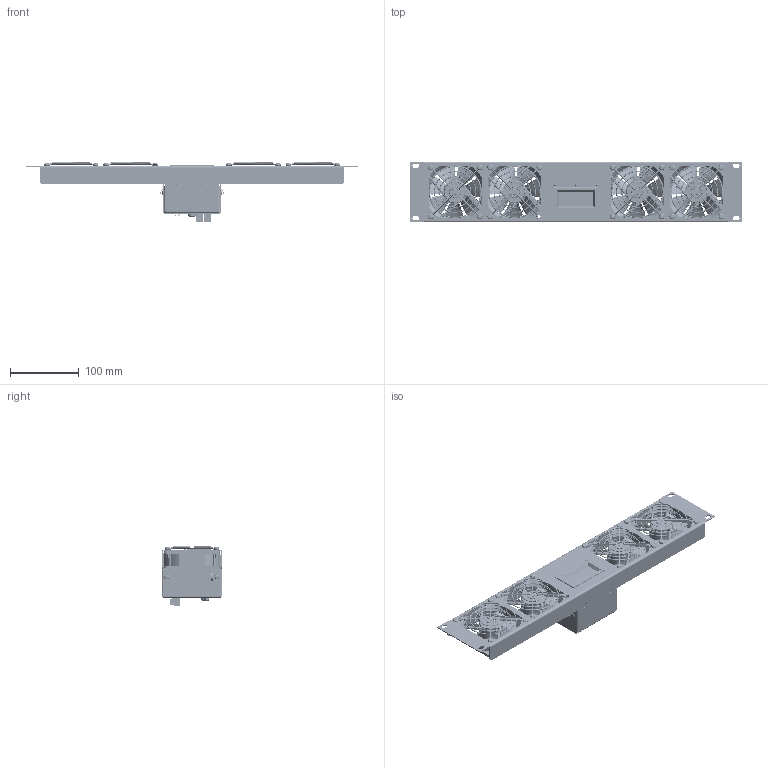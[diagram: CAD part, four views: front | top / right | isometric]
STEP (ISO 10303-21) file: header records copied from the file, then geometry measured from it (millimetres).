
FILE_DESCRIPTION((''),'2;1');
FILE_NAME('AUQFP4D_ASM','2014-03-10T',('RRenderos'),('Middle Atlantic Products'),'PRO/ENGINEER BY PARAMETRIC TECHNOLOGY CORPORATION, 2013330','PRO/ENGINEER BY PARAMETRIC TECHNOLOGY CORPORATION, 2013330','');
FILE_SCHEMA(('CONFIG_CONTROL_DESIGN'));
Length unit declared in the file: inch
Products named in the file (50): SSUQFP4D; 600-00901; 500-00344; 500-00343; UQFP-4_FAN_WIRING; SSUQFPCVRD1; 500-00137; 500-00520; PUQFPBRKT; 500-00131; STUQFPBRKT_ASM; 500-00357; 6FLHN; 600-01114; CC0603-IPC; CC0805-IPC; CN_3MKS100ST; ABLS; SO10_MSOP; CN_03DCJ_RA_2P5; CN_10FHD100ST; CN_2WMS200RA; FB0603-IPC; RC0603-IPC; RC0805-IPC; FERRITE_BEAD_4; LED_3MM_RA; SOD-123; SSOP28; RLY_SPSTSIP; SW-SPST-RA-001; SOT23-6_VS_6; SO16NB; SOT23-6; 690-00107_ASM; 600-00208; 600-01115; CA_R010_015_020_P; CN_10PHD100RA; LED_5X7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
Assembly tree (141 placements, depth 3):
  AUQFP4D_ASM
    SSUQFP4D
    600-00901  x4
    500-00344  x4
    500-00343  x16
    UQFP-4_FAN_WIRING
    SSUQFPCVRD1
    500-00137
    500-00520  x4
    STUQFPBRKT_ASM
      PUQFPBRKT
      500-00131  x4
    500-00357  x2
    6FLHN  x2
    690-00107_ASM
      600-01114
      CC0603-IPC
      CC0805-IPC  x8
      CN_3MKS100ST  x5
      ABLS
      SO10_MSOP
      CN_03DCJ_RA_2P5
      CN_10FHD100ST
      CN_2WMS200RA  x2
      FB0603-IPC  x2
      RC0603-IPC  x7
      RC0805-IPC  x27
      FERRITE_BEAD_4
      LED_3MM_RA  x3
      SOD-123
      SSOP28
      RLY_SPSTSIP  x2
      SW-SPST-RA-001
      SOT23-6_VS_6
      SO16NB
      SOT23-6
    600-00208  x2
    690-00109_ASM
      600-01115
      CC0603-IPC  x2
      CA_R010_015_020_P
      CC0805-IPC
      CN_10PHD100RA
      LED_5X7  x3
      SSOP36
      RC0805-IPC  x3
    80-005-1  x4
    800-00020
    800-00021
    FAN_CONNECT_CROWN  x4
    600-00012
    600-00942
    630-00023
Bounding box: 482.6 x 88.52 x 86.41 mm (x, y, z)
Volume: 389096.4 mm3; surface area: 367086.4 mm2
Topology: 163 solids, 163 shells, 5604 faces, 14103 edges, 8893 vertices
Faces by surface type: plane 3247, cylinder 1425, torus 448, sphere 226, bspline 142, cone 98, extrusion 18
Entity records: 93383 total; most frequent: CARTESIAN_POINT 21679, DIRECTION 14909, ORIENTED_EDGE 14244, EDGE_CURVE 7122, AXIS2_PLACEMENT_3D 5030, VECTOR 4849, LINE 4839, VERTEX_POINT 4531
